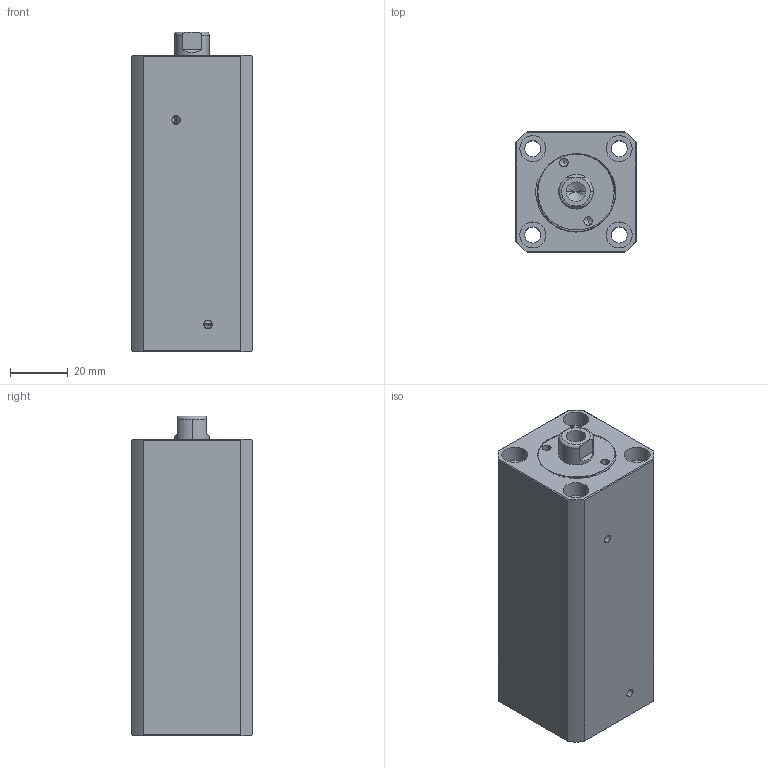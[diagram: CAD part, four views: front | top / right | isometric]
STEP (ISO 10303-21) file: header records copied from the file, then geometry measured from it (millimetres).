
FILE_DESCRIPTION (( 'STEP AP214' ), '1' );
FILE_NAME ('chtb-sdmb20x60n_asm.STEP', '2018-05-18T08:28:49', ( 'Windows' ), ( 'Microsoft' ), 'SwSTEP 2.0', 'SolidWorks 2015', '' );
FILE_SCHEMA (( 'AUTOMOTIVE_DESIGN' ));
Length unit declared in the file: millimetre
Products named in the file (4): CHTB-SDMB20X60NBT; chtb-sdmb20x60n_asm; QG_3; CHTB-SDMB20X60NHSG
Assembly tree (3 placements, depth 2):
  chtb-sdmb20x60n_asm
    CHTB-SDMB20X60NBT
    CHTB-SDMB20X60NHSG
    QG_3
Bounding box: 42 x 42 x 111 mm (x, y, z)
Volume: 152839 mm3; surface area: 44578.5 mm2
Topology: 3 solids, 3 shells, 201 faces, 535 edges, 354 vertices
Faces by surface type: cylinder 106, plane 43, torus 25, bspline 21, cone 6
Entity records: 11558 total; most frequent: CARTESIAN_POINT 6663, ORIENTED_EDGE 1058, DIRECTION 922, EDGE_CURVE 529, AXIS2_PLACEMENT_3D 388, VERTEX_POINT 354, EDGE_LOOP 239, CIRCLE 202
